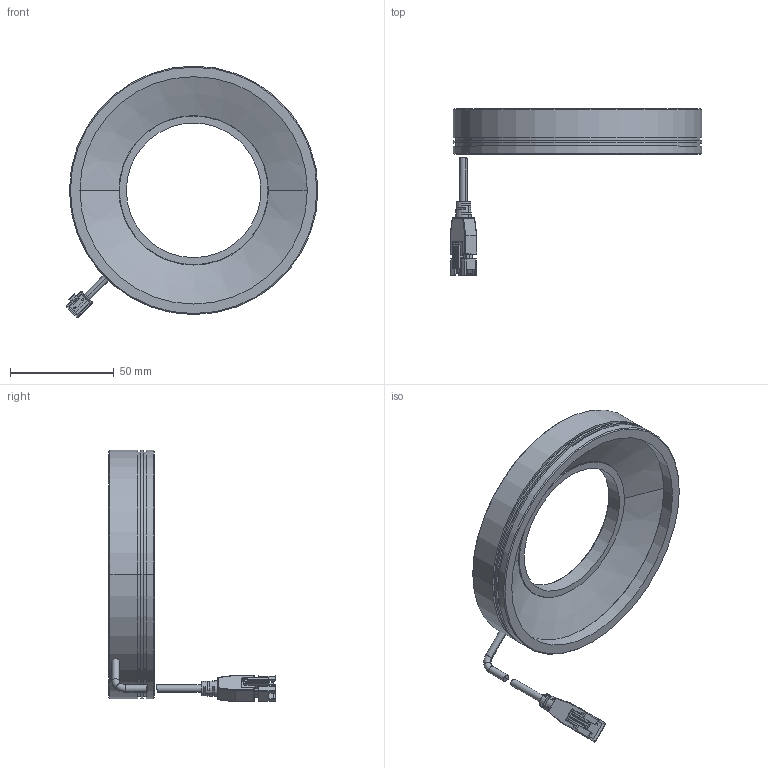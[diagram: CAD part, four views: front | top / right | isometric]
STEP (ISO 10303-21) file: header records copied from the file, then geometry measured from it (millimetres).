
FILE_DESCRIPTION((''),'2;1');
FILE_NAME('MV-LRDS-120-70_ASM','2019-09-19T',('rs-zhongwm'),(''),'PRO/ENGINEER BY PARAMETRIC TECHNOLOGY CORPORATION, 2010100','PRO/ENGINEER BY PARAMETRIC TECHNOLOGY CORPORATION, 2010100','');
FILE_SCHEMA(('CONFIG_CONTROL_DESIGN'));
Length unit declared in the file: millimetre
Products named in the file (5): PRT0041; PRT0042; PRT0043; ASM0026_ASM; MV-LRDS-120-70_ASM
Assembly tree (4 placements, depth 3):
  MV-LRDS-120-70_ASM
    PRT0041
    ASM0026_ASM
      PRT0042
      PRT0043
Bounding box: 121.6 x 80.3 x 121.6 mm (x, y, z)
Volume: 108046.8 mm3; surface area: 34605.8 mm2
Topology: 3 solids, 7 shells, 285 faces, 716 edges, 445 vertices
Faces by surface type: plane 140, cylinder 97, cone 20, torus 12, bspline 8, sphere 8
Entity records: 8787 total; most frequent: CARTESIAN_POINT 1836, DIRECTION 1474, ORIENTED_EDGE 1384, EDGE_CURVE 700, AXIS2_PLACEMENT_3D 530, VERTEX_POINT 445, VECTOR 414, LINE 414
